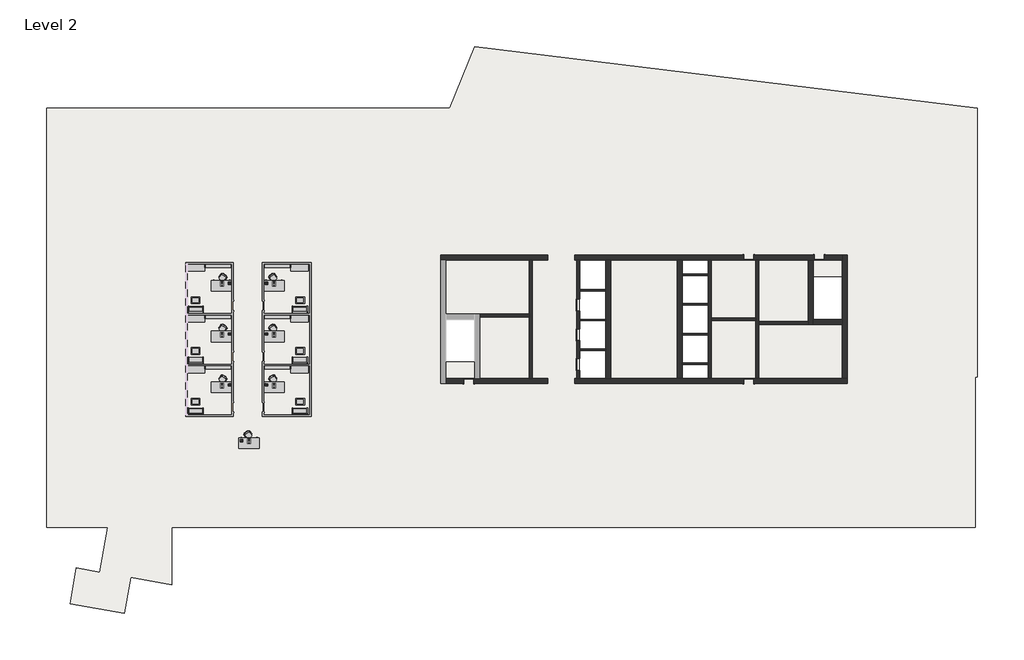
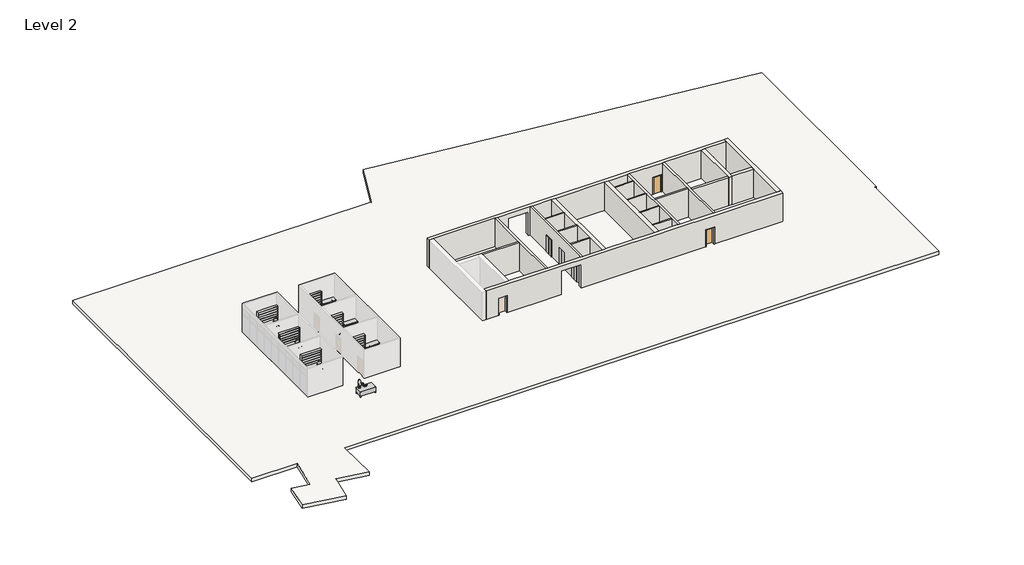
# One storey, part 2 of 2: 38 furniture elements, 21 walls, 17 proxies, 3 doors, 1 slab.
"""IFC4 building model written with IfcOpenShell, lengths in millimetres."""

from ifc_helpers import new_model, si_unit, frame, origin, place, context, project, spatial, polyline, outline, extrude, faceted_brep, transform, mapped, element, save
from components import entourage_0ad6723a, entourage_8dadc95b, proxy_7fed659c, phone_phone_5230e7aa, phone_phone_b8b7aebd, door_3c99239a, door_aec9db07, chair_executive_chair_executive_8d69e98c, chair_executive_chair_executive_a5be4872, furniture_894c625b, furniture_2f1724fb, furniture_2fc54265, furniture_91cd4dc0, furniture_b1da5ad0, furniture_33c9adaf, furniture_22419f35, furniture_8ec9ccbf, furniture_5f90431c, furniture_32e53e92

model = new_model("IFC4")

# Units and contexts
model_context = context("Model", 3, world=origin())
ifc_project = project(units=[si_unit("LENGTHUNIT", "METRE", prefix="MILLI")], contexts=[model_context])

# Site, building, storey
site = spatial("IfcSite", under=ifc_project)
building = spatial("IfcBuilding", under=site)
storey = spatial("IfcBuildingStorey", under=building, Name="Level 2", Elevation=3657.6)

# Proxies
placement = place(None, origin())
entourage_shape = entourage_0ad6723a(model_context)
element("IfcBuildingElementProxy", 1, Name="RPC Notebook Computer : RPC Notebook Computer", ObjectType="RPC Notebook Computer : RPC Notebook Computer", at=placement, inside=storey, context=model_context, shape_type="MappedRepresentation", body=[
    mapped(entourage_shape, transform((-52901.4856498, -14963.1103492, 4419.6), x_axis=(-1.0, 0.0, 0.0), y_axis=(0.0, -1.0, 0.0), z_axis=(0.0, 0.0, 1.0))),
])
element("IfcBuildingElementProxy", 2, Name="RPC Notebook Computer : RPC Notebook Computer", ObjectType="RPC Notebook Computer : RPC Notebook Computer", at=placement, inside=storey, context=model_context, shape_type="MappedRepresentation", body=[
    mapped(entourage_shape, transform((-52901.4856498, -10391.1103492, 4419.6), x_axis=(-1.0, 0.0, 0.0), y_axis=(0.0, -1.0, 0.0), z_axis=(0.0, 0.0, 1.0))),
])
element("IfcBuildingElementProxy", 3, Name="RPC Notebook Computer : RPC Notebook Computer", ObjectType="RPC Notebook Computer : RPC Notebook Computer", at=placement, inside=storey, context=model_context, shape_type="MappedRepresentation", body=[
    mapped(entourage_shape, transform((-52901.4856498, -5819.1103492, 4419.6), x_axis=(-1.0, 0.0, 0.0), y_axis=(0.0, -1.0, 0.0), z_axis=(0.0, 0.0, 1.0))),
])
entourage_2_shape = entourage_8dadc95b(model_context)
element("IfcBuildingElementProxy", 4, Name="RPC Notebook Computer : RPC Notebook Computer", ObjectType="RPC Notebook Computer : RPC Notebook Computer", at=placement, inside=storey, context=model_context, shape_type="MappedRepresentation", body=[
    mapped(entourage_2_shape, transform((-48216.9999355, -10391.1103492, 4419.6), x_axis=(1.0, 0.0, 0.0), y_axis=(0.0, 1.0, 0.0), z_axis=(0.0, 0.0, 1.0))),
])
element("IfcBuildingElementProxy", 5, Name="RPC Notebook Computer : RPC Notebook Computer", ObjectType="RPC Notebook Computer : RPC Notebook Computer", at=placement, inside=storey, context=model_context, shape_type="MappedRepresentation", body=[
    mapped(entourage_2_shape, transform((-48216.9999355, -14963.1103492, 4419.6), x_axis=(1.0, 0.0, 0.0), y_axis=(0.0, 1.0, 0.0), z_axis=(0.0, 0.0, 1.0))),
])
element("IfcBuildingElementProxy", 6, Name="RPC Notebook Computer : RPC Notebook Computer", ObjectType="RPC Notebook Computer : RPC Notebook Computer", at=placement, inside=storey, context=model_context, shape_type="MappedRepresentation", body=[
    mapped(entourage_2_shape, transform((-48216.9999355, -5819.1103492, 4419.6), x_axis=(1.0, 0.0, 0.0), y_axis=(0.0, 1.0, 0.0), z_axis=(0.0, 0.0, 1.0))),
])
element("IfcBuildingElementProxy", 7, Name="RPC Notebook Computer : RPC Notebook Computer", ObjectType="RPC Notebook Computer : RPC Notebook Computer", at=placement, inside=storey, context=model_context, shape_type="MappedRepresentation", body=[
    mapped(entourage_2_shape, transform((-50448.5198541, -19975.186148, 4419.6), x_axis=(1.0, 0.0, 0.0), y_axis=(0.0, 1.0, 0.0), z_axis=(0.0, 0.0, 1.0))),
])
proxy_shape = proxy_7fed659c(model_context)
element("IfcBuildingElementProxy", 8, Name="Elevator%20Door-Center[1] : 42\" x 84\"", ObjectType="Elevator%20Door-Center[1] : 42\" x 84\"", at=placement, inside=storey, context=model_context, shape_type="MappedRepresentation", body=[
    mapped(proxy_shape, transform((-20852.1285069, -7663.0747049, 3657.6), x_axis=(0.0, 1.0, 0.0), y_axis=(-1.0, 0.0, 0.0), z_axis=(0.0, 0.0, 1.0))),
])
element("IfcBuildingElementProxy", 9, Name="Elevator%20Door-Center[1] : 42\" x 84\"", ObjectType="Elevator%20Door-Center[1] : 42\" x 84\"", at=placement, inside=storey, context=model_context, shape_type="MappedRepresentation", body=[
    mapped(proxy_shape, transform((-20852.1285069, -10330.0747049, 3657.6), x_axis=(0.0, 1.0, 0.0), y_axis=(-1.0, 0.0, 0.0), z_axis=(0.0, 0.0, 1.0))),
])
element("IfcBuildingElementProxy", 10, Name="Elevator%20Door-Center[1] : 42\" x 84\"", ObjectType="Elevator%20Door-Center[1] : 42\" x 84\"", at=placement, inside=storey, context=model_context, shape_type="MappedRepresentation", body=[
    mapped(proxy_shape, transform((-20852.1285069, -12997.0747049, 3657.6), x_axis=(0.0, 1.0, 0.0), y_axis=(-1.0, 0.0, 0.0), z_axis=(0.0, 0.0, 1.0))),
])
phone_phone_shape = phone_phone_5230e7aa(model_context)
element("IfcBuildingElementProxy", 11, Name="Phone : Phone", ObjectType="Phone : Phone", at=placement, inside=storey, context=model_context, shape_type="MappedRepresentation", body=[
    mapped(phone_phone_shape, transform((-51981.0043036, -15147.0065782, 4419.6), x_axis=(1.0, 0.0, 0.0), y_axis=(0.0, 1.0, 0.0), z_axis=(0.0, 0.0, 1.0))),
])
element("IfcBuildingElementProxy", 12, Name="Phone : Phone", ObjectType="Phone : Phone", at=placement, inside=storey, context=model_context, shape_type="MappedRepresentation", body=[
    mapped(phone_phone_shape, transform((-51981.0043036, -10575.0065782, 4419.6), x_axis=(1.0, 0.0, 0.0), y_axis=(0.0, 1.0, 0.0), z_axis=(0.0, 0.0, 1.0))),
])
element("IfcBuildingElementProxy", 13, Name="Phone : Phone", ObjectType="Phone : Phone", at=placement, inside=storey, context=model_context, shape_type="MappedRepresentation", body=[
    mapped(phone_phone_shape, transform((-51981.0043036, -6003.0065782, 4419.6), x_axis=(1.0, 0.0, 0.0), y_axis=(0.0, 1.0, 0.0), z_axis=(0.0, 0.0, 1.0))),
])
phone_phone_2_shape = phone_phone_b8b7aebd(model_context)
element("IfcBuildingElementProxy", 14, Name="Phone : Phone", ObjectType="Phone : Phone", at=placement, inside=storey, context=model_context, shape_type="MappedRepresentation", body=[
    mapped(phone_phone_2_shape, transform((-49137.4812816, -10575.0065782, 4419.6), x_axis=(-1.0, 0.0, 0.0), y_axis=(0.0, -1.0, 0.0), z_axis=(0.0, 0.0, 1.0))),
])
element("IfcBuildingElementProxy", 15, Name="Phone : Phone", ObjectType="Phone : Phone", at=placement, inside=storey, context=model_context, shape_type="MappedRepresentation", body=[
    mapped(phone_phone_2_shape, transform((-49137.4812816, -15147.0065782, 4419.6), x_axis=(-1.0, 0.0, 0.0), y_axis=(0.0, -1.0, 0.0), z_axis=(0.0, 0.0, 1.0))),
])
element("IfcBuildingElementProxy", 16, Name="Phone : Phone", ObjectType="Phone : Phone", at=placement, inside=storey, context=model_context, shape_type="MappedRepresentation", body=[
    mapped(phone_phone_2_shape, transform((-49137.4812816, -6003.0065782, 4419.6), x_axis=(-1.0, 0.0, 0.0), y_axis=(0.0, -1.0, 0.0), z_axis=(0.0, 0.0, 1.0))),
])
element("IfcBuildingElementProxy", 17, Name="Phone : Phone", ObjectType="Phone : Phone", at=placement, inside=storey, context=model_context, shape_type="MappedRepresentation", body=[
    mapped(phone_phone_2_shape, transform((-51369.0012002, -20159.082377, 4419.6), x_axis=(-1.0, 0.0, 0.0), y_axis=(0.0, -1.0, 0.0), z_axis=(0.0, 0.0, 1.0))),
])

# Doors
door_shape = door_3c99239a(model_context)
element("IfcDoor", 18, ObjectType="Single-Flush : 36\" x 84\"", at=placement, inside=storey, context=model_context, shape_type="MappedRepresentation", body=[
    mapped(door_shape, transform((817.7000645, -3469.6103492, 3657.6), x_axis=(-1.0, 0.0, 0.0), y_axis=(0.0, -1.0, 0.0), z_axis=(0.0, 0.0, 1.0))),
])
element("IfcDoor", 19, ObjectType="Single-Flush : 36\" x 84\"", at=placement, inside=storey, context=model_context, shape_type="MappedRepresentation", body=[
    mapped(door_shape, transform((-5525.0427926, -14594.8103492, 3657.6), x_axis=(1.0, 0.0, 0.0), y_axis=(0.0, 1.0, 0.0), z_axis=(0.0, 0.0, 1.0))),
])
door_2_shape = door_aec9db07(model_context)
element("IfcDoor", 20, ObjectType="Single-Flush : 36\" x 84\"", at=placement, inside=storey, context=model_context, shape_type="MappedRepresentation", body=[
    mapped(door_2_shape, transform((-5525.0427926, -3469.6103492, 3657.6), x_axis=(1.0, 0.0, 0.0), y_axis=(0.0, 1.0, 0.0), z_axis=(0.0, 0.0, 1.0))),
])

# Furniture
chair_executive_chair_executive_shape = chair_executive_chair_executive_8d69e98c(model_context)
element("IfcFurniture", 21, ObjectType="Chair-Executive : Chair-Executive", at=placement, inside=storey, context=model_context, shape_type="MappedRepresentation", body=[
    mapped(chair_executive_chair_executive_shape, transform((-52699.1922211, -14498.6688157, 3657.6), x_axis=(-0.838670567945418, 0.5446390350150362, 0.0), y_axis=(-0.5446390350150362, -0.838670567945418, 0.0), z_axis=(0.0, 0.0, 1.0))),
])
element("IfcFurniture", 22, ObjectType="Chair-Executive : Chair-Executive", at=placement, inside=storey, context=model_context, shape_type="MappedRepresentation", body=[
    mapped(chair_executive_chair_executive_shape, transform((-52699.1922211, -9926.6688157, 3657.6), x_axis=(-0.8386705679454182, 0.5446390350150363, 0.0), y_axis=(-0.5446390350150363, -0.8386705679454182, 0.0), z_axis=(0.0, 0.0, 1.0))),
])
element("IfcFurniture", 23, ObjectType="Chair-Executive : Chair-Executive", at=placement, inside=storey, context=model_context, shape_type="MappedRepresentation", body=[
    mapped(chair_executive_chair_executive_shape, transform((-52699.1922211, -5354.6688157, 3657.6), x_axis=(-0.8386705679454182, 0.5446390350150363, 0.0), y_axis=(-0.5446390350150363, -0.8386705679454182, 0.0), z_axis=(0.0, 0.0, 1.0))),
])
chair_executive_chair_executive_2_shape = chair_executive_chair_executive_a5be4872(model_context)
element("IfcFurniture", 24, ObjectType="Chair-Executive : Chair-Executive", at=placement, inside=storey, context=model_context, shape_type="MappedRepresentation", body=[
    mapped(chair_executive_chair_executive_2_shape, transform((-48419.2933641, -9926.6688157, 3657.6), x_axis=(0.8386705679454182, 0.5446390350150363, 0.0), y_axis=(-0.5446390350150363, 0.8386705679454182, 0.0), z_axis=(0.0, 0.0, 1.0))),
])
element("IfcFurniture", 25, ObjectType="Chair-Executive : Chair-Executive", at=placement, inside=storey, context=model_context, shape_type="MappedRepresentation", body=[
    mapped(chair_executive_chair_executive_2_shape, transform((-48419.2933641, -14498.6688157, 3657.6), x_axis=(0.8386705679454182, 0.5446390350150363, 0.0), y_axis=(-0.5446390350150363, 0.8386705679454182, 0.0), z_axis=(0.0, 0.0, 1.0))),
])
element("IfcFurniture", 26, ObjectType="Chair-Executive : Chair-Executive", at=placement, inside=storey, context=model_context, shape_type="MappedRepresentation", body=[
    mapped(chair_executive_chair_executive_2_shape, transform((-48419.2933641, -5354.6688157, 3657.6), x_axis=(0.8386705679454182, 0.5446390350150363, 0.0), y_axis=(-0.5446390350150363, 0.8386705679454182, 0.0), z_axis=(0.0, 0.0, 1.0))),
])
element("IfcFurniture", 27, ObjectType="Chair-Executive : Chair-Executive", at=placement, inside=storey, context=model_context, shape_type="MappedRepresentation", body=[
    mapped(chair_executive_chair_executive_2_shape, transform((-50650.8132827, -19510.7446145, 3657.6), x_axis=(0.8386705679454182, 0.5446390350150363, 0.0), y_axis=(-0.5446390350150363, 0.8386705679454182, 0.0), z_axis=(0.0, 0.0, 1.0))),
])
furniture_shape = furniture_894c625b(model_context)
element("IfcFurniture", 28, ObjectType="Credenza : 60\" x 24\"", at=placement, inside=storey, context=model_context, shape_type="MappedRepresentation", body=[
    mapped(furniture_shape, transform((-55272.4299121, -13519.8906771, 3657.6), x_axis=(1.0, 0.0, 0.0), y_axis=(0.0, 1.0, 0.0), z_axis=(0.0, 0.0, 1.0))),
])
element("IfcFurniture", 29, ObjectType="Credenza : 60\" x 24\"", at=placement, inside=storey, context=model_context, shape_type="MappedRepresentation", body=[
    mapped(furniture_shape, transform((-55272.4299121, -8947.8906771, 3657.6), x_axis=(1.0, 0.0, 0.0), y_axis=(0.0, 1.0, 0.0), z_axis=(0.0, 0.0, 1.0))),
])
element("IfcFurniture", 30, ObjectType="Credenza : 60\" x 24\"", at=placement, inside=storey, context=model_context, shape_type="MappedRepresentation", body=[
    mapped(furniture_shape, transform((-55272.4299121, -4375.8906771, 3657.6), x_axis=(1.0, 0.0, 0.0), y_axis=(0.0, 1.0, 0.0), z_axis=(0.0, 0.0, 1.0))),
])
furniture_2_shape = furniture_2f1724fb(model_context)
element("IfcFurniture", 31, ObjectType="Credenza : 60\" x 24\"", at=placement, inside=storey, context=model_context, shape_type="MappedRepresentation", body=[
    mapped(furniture_2_shape, transform((-45846.0556732, -8947.8906771, 3657.6), x_axis=(-1.0, 0.0, 0.0), y_axis=(0.0, -1.0, 0.0), z_axis=(0.0, 0.0, 1.0))),
])
element("IfcFurniture", 32, ObjectType="Credenza : 60\" x 24\"", at=placement, inside=storey, context=model_context, shape_type="MappedRepresentation", body=[
    mapped(furniture_2_shape, transform((-45846.0556732, -13519.8906771, 3657.6), x_axis=(-1.0, 0.0, 0.0), y_axis=(0.0, -1.0, 0.0), z_axis=(0.0, 0.0, 1.0))),
])
element("IfcFurniture", 33, ObjectType="Credenza : 60\" x 24\"", at=placement, inside=storey, context=model_context, shape_type="MappedRepresentation", body=[
    mapped(furniture_2_shape, transform((-45846.0556732, -4375.8906771, 3657.6), x_axis=(-1.0, 0.0, 0.0), y_axis=(0.0, -1.0, 0.0), z_axis=(0.0, 0.0, 1.0))),
])
furniture_3_shape = furniture_2fc54265(model_context)
element("IfcFurniture", 34, ObjectType="Desk : 72\" x 36\"", at=placement, inside=storey, context=model_context, shape_type="MappedRepresentation", body=[
    mapped(furniture_3_shape, transform((-53815.8856498, -15610.8103492, 3657.6), x_axis=(1.0000000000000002, 0.0, 0.0), y_axis=(0.0, 1.0000000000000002, 0.0), z_axis=(0.0, 0.0, 1.0))),
])
element("IfcFurniture", 35, ObjectType="Desk : 72\" x 36\"", at=placement, inside=storey, context=model_context, shape_type="MappedRepresentation", body=[
    mapped(furniture_3_shape, transform((-53815.8856498, -11038.8103492, 3657.6), x_axis=(1.0, 0.0, 0.0), y_axis=(0.0, 1.0, 0.0), z_axis=(0.0, 0.0, 1.0))),
])
element("IfcFurniture", 36, ObjectType="Desk : 72\" x 36\"", at=placement, inside=storey, context=model_context, shape_type="MappedRepresentation", body=[
    mapped(furniture_3_shape, transform((-53815.8856498, -6466.8103492, 3657.6), x_axis=(1.0, 0.0, 0.0), y_axis=(0.0, 1.0, 0.0), z_axis=(0.0, 0.0, 1.0))),
])
furniture_4_shape = furniture_91cd4dc0(model_context)
element("IfcFurniture", 37, ObjectType="Desk : 72\" x 36\"", at=placement, inside=storey, context=model_context, shape_type="MappedRepresentation", body=[
    mapped(furniture_4_shape, transform((-47302.5999355, -11038.8103492, 3657.6), x_axis=(-1.0, 0.0, 0.0), y_axis=(0.0, -1.0, 0.0), z_axis=(0.0, 0.0, 1.0))),
])
element("IfcFurniture", 38, ObjectType="Desk : 72\" x 36\"", at=placement, inside=storey, context=model_context, shape_type="MappedRepresentation", body=[
    mapped(furniture_4_shape, transform((-47302.5999355, -15610.8103492, 3657.6), x_axis=(-1.0, 0.0, 0.0), y_axis=(0.0, -1.0, 0.0), z_axis=(0.0, 0.0, 1.0))),
])
element("IfcFurniture", 39, ObjectType="Desk : 72\" x 36\"", at=placement, inside=storey, context=model_context, shape_type="MappedRepresentation", body=[
    mapped(furniture_4_shape, transform((-47302.5999355, -6466.8103492, 3657.6), x_axis=(-1.0, 0.0, 0.0), y_axis=(0.0, -1.0, 0.0), z_axis=(0.0, 0.0, 1.0))),
])
element("IfcFurniture", 40, ObjectType="Desk : 72\" x 36\"", at=placement, inside=storey, context=model_context, shape_type="MappedRepresentation", body=[
    mapped(furniture_4_shape, transform((-49534.1198541, -20622.886148, 3657.6), x_axis=(-1.0, 0.0, 0.0), y_axis=(0.0, -1.0, 0.0), z_axis=(0.0, 0.0, 1.0))),
])
furniture_5_shape = furniture_b1da5ad0(model_context)
element("IfcFurniture", 41, ObjectType="Shelving : 96\" x 12\" x 84\"", at=placement, inside=storey, context=model_context, shape_type="MappedRepresentation", body=[
    mapped(furniture_5_shape, transform((-53206.2856498, -13058.1103492, 3657.6), x_axis=(1.0, 0.0, 0.0), y_axis=(0.0, 1.0, 0.0), z_axis=(0.0, 0.0, 1.0))),
])
element("IfcFurniture", 42, ObjectType="Shelving : 96\" x 12\" x 84\"", at=placement, inside=storey, context=model_context, shape_type="MappedRepresentation", body=[
    mapped(furniture_5_shape, transform((-53206.2856498, -8486.1103492, 3657.6), x_axis=(1.0, 0.0, 0.0), y_axis=(0.0, 1.0, 0.0), z_axis=(0.0, 0.0, 1.0))),
])
element("IfcFurniture", 43, ObjectType="Shelving : 96\" x 12\" x 84\"", at=placement, inside=storey, context=model_context, shape_type="MappedRepresentation", body=[
    mapped(furniture_5_shape, transform((-53206.2856498, -3914.1103492, 3657.6), x_axis=(1.0, 0.0, 0.0), y_axis=(0.0, 1.0, 0.0), z_axis=(0.0, 0.0, 1.0))),
])
furniture_6_shape = furniture_33c9adaf(model_context)
element("IfcFurniture", 44, ObjectType="Shelving : 96\" x 12\" x 84\"", at=placement, inside=storey, context=model_context, shape_type="MappedRepresentation", body=[
    mapped(furniture_6_shape, transform((-47912.1999355, -8486.1103492, 3657.6), x_axis=(-1.0, 0.0, 0.0), y_axis=(0.0, -1.0, 0.0), z_axis=(0.0, 0.0, 1.0))),
])
element("IfcFurniture", 45, ObjectType="Shelving : 96\" x 12\" x 84\"", at=placement, inside=storey, context=model_context, shape_type="MappedRepresentation", body=[
    mapped(furniture_6_shape, transform((-47912.1999355, -13058.1103492, 3657.6), x_axis=(-1.0, 0.0, 0.0), y_axis=(0.0, -1.0, 0.0), z_axis=(0.0, 0.0, 1.0))),
])
element("IfcFurniture", 46, ObjectType="Shelving : 96\" x 12\" x 84\"", at=placement, inside=storey, context=model_context, shape_type="MappedRepresentation", body=[
    mapped(furniture_6_shape, transform((-47912.1999355, -3914.1103492, 3657.6), x_axis=(-1.0, 0.0, 0.0), y_axis=(0.0, -1.0, 0.0), z_axis=(0.0, 0.0, 1.0))),
])
furniture_7_shape = furniture_22419f35(model_context)
element("IfcFurniture", 47, ObjectType="Sofa : 54\"", at=placement, inside=storey, context=model_context, shape_type="MappedRepresentation", body=[
    mapped(furniture_7_shape, transform((-55167.915158, -17174.6119184, 3657.6), x_axis=(-1.0, 0.0, 0.0), y_axis=(0.0, -1.0, 0.0), z_axis=(0.0, 0.0, 1.0))),
])
element("IfcFurniture", 48, ObjectType="Sofa : 54\"", at=placement, inside=storey, context=model_context, shape_type="MappedRepresentation", body=[
    mapped(furniture_7_shape, transform((-55167.915158, -12602.6119184, 3657.6), x_axis=(-1.0, 0.0, 0.0), y_axis=(0.0, -1.0, 0.0), z_axis=(0.0, 0.0, 1.0))),
])
element("IfcFurniture", 49, ObjectType="Sofa : 54\"", at=placement, inside=storey, context=model_context, shape_type="MappedRepresentation", body=[
    mapped(furniture_7_shape, transform((-55167.915158, -8030.6119184, 3657.6), x_axis=(-1.0, 0.0, 0.0), y_axis=(0.0, -1.0, 0.0), z_axis=(0.0, 0.0, 1.0))),
])
furniture_8_shape = furniture_8ec9ccbf(model_context)
element("IfcFurniture", 50, ObjectType="Sofa : 54\"", at=placement, inside=storey, context=model_context, shape_type="MappedRepresentation", body=[
    mapped(furniture_8_shape, transform((-45950.5704273, -12602.6119184, 3657.6), x_axis=(1.0, 0.0, 0.0), y_axis=(0.0, 1.0, 0.0), z_axis=(0.0, 0.0, 1.0))),
])
element("IfcFurniture", 51, ObjectType="Sofa : 54\"", at=placement, inside=storey, context=model_context, shape_type="MappedRepresentation", body=[
    mapped(furniture_8_shape, transform((-45950.5704273, -17174.6119184, 3657.6), x_axis=(1.0, 0.0, 0.0), y_axis=(0.0, 1.0, 0.0), z_axis=(0.0, 0.0, 1.0))),
])
element("IfcFurniture", 52, ObjectType="Sofa : 54\"", at=placement, inside=storey, context=model_context, shape_type="MappedRepresentation", body=[
    mapped(furniture_8_shape, transform((-45950.5704273, -8030.6119184, 3657.6), x_axis=(1.0, 0.0, 0.0), y_axis=(0.0, 1.0, 0.0), z_axis=(0.0, 0.0, 1.0))),
])
furniture_9_shape = furniture_5f90431c(model_context)
element("IfcFurniture", 53, ObjectType="Table-Coffee : 31\" x 28\" x 24\"", at=placement, inside=storey, context=model_context, shape_type="MappedRepresentation", body=[
    mapped(furniture_9_shape, transform((-55168.474572, -16475.4317834, 3657.6), x_axis=(0.0, 1.0, 0.0), y_axis=(-1.0, 0.0, 0.0), z_axis=(0.0, 0.0, 1.0))),
])
element("IfcFurniture", 54, ObjectType="Table-Coffee : 31\" x 28\" x 24\"", at=placement, inside=storey, context=model_context, shape_type="MappedRepresentation", body=[
    mapped(furniture_9_shape, transform((-55168.474572, -11903.4317834, 3657.6), x_axis=(0.0, 1.0, 0.0), y_axis=(-1.0, 0.0, 0.0), z_axis=(0.0, 0.0, 1.0))),
])
element("IfcFurniture", 55, ObjectType="Table-Coffee : 31\" x 28\" x 24\"", at=placement, inside=storey, context=model_context, shape_type="MappedRepresentation", body=[
    mapped(furniture_9_shape, transform((-55168.474572, -7331.4317834, 3657.6), x_axis=(0.0, 1.0, 0.0), y_axis=(-1.0, 0.0, 0.0), z_axis=(0.0, 0.0, 1.0))),
])
furniture_10_shape = furniture_32e53e92(model_context)
element("IfcFurniture", 56, ObjectType="Table-Coffee : 31\" x 28\" x 24\"", at=placement, inside=storey, context=model_context, shape_type="MappedRepresentation", body=[
    mapped(furniture_10_shape, transform((-45950.0110133, -11903.4317834, 3657.6), x_axis=(0.0, 1.0, 0.0), y_axis=(-1.0, 0.0, 0.0), z_axis=(0.0, 0.0, 1.0))),
])
element("IfcFurniture", 57, ObjectType="Table-Coffee : 31\" x 28\" x 24\"", at=placement, inside=storey, context=model_context, shape_type="MappedRepresentation", body=[
    mapped(furniture_10_shape, transform((-45950.0110133, -16475.4317834, 3657.6), x_axis=(0.0, 1.0, 0.0), y_axis=(-1.0, 0.0, 0.0), z_axis=(0.0, 0.0, 1.0))),
])
element("IfcFurniture", 58, ObjectType="Table-Coffee : 31\" x 28\" x 24\"", at=placement, inside=storey, context=model_context, shape_type="MappedRepresentation", body=[
    mapped(furniture_10_shape, transform((-45950.0110133, -7331.4317834, 3657.6), x_axis=(0.0, 1.0, 0.0), y_axis=(-1.0, 0.0, 0.0), z_axis=(0.0, 0.0, 1.0))),
])

# Slab
element("IfcSlab", 59, ObjectType="Steel Bar Joist 14\" - Concrete", at=placement, inside=storey, context=model_context, shape_type="SweptSolid", body=[
    extrude(outline(polyline([(-68660.7599961, -27742.4853492), (-68660.7599961, 9954.2896508), (-32421.4843139, 9954.2896508), (-30175.817983, 15512.5088637), (15043.3054088, 9960.2986536), (15043.3054088, -14218.4266737), (14830.5804088, -14218.4266737), (14830.5804088, -27735.220667), (-57415.8125003, -27735.220667), (-57415.8125003, -32919.911766), (-61087.9334678, -32272.417763), (-61658.0117526, -35505.4923758), (-66551.3983764, -34642.656287), (-65981.3200915, -31409.5816742), (-63880.1342697, -31780.0774261), (-63168.1978494, -27742.4853492), (-68660.7599961, -27742.4853492)]), holes=[polyline([(-32750.2142212, -9032.2103492), (-32750.2142212, -12842.2103492), (-30166.6713641, -12842.2103492), (-30166.6713641, -9032.2103492), (-32750.2142212, -9032.2103492)]), polyline([(-20725.1285069, -3698.2103492), (-20725.1285069, -14366.2103492), (-18385.1284437, -14366.2103492), (-18385.1284437, -3698.2103492), (-20725.1285069, -3698.2103492)]), polyline([(-9157.2427926, -3698.2103492), (-11497.2428559, -3698.2103492), (-11497.2428559, -14366.2103492), (-9157.2427926, -14366.2103492), (-9157.2427926, -3698.2103492)]), polyline([(2867.8429217, -9032.2103492), (2867.8429217, -5222.2103492), (284.3000645, -5222.2103492), (284.3000645, -9032.2103492), (2867.8429217, -9032.2103492)])]), frame((0.0, 0.0, 3222.625), z_axis=(0.0, 0.0, 1.0), x_axis=(1.0, 0.0, 0.0)), (0.0, 0.0, 1.0), 434.975),
])

# Walls
element("IfcWall", 60, ObjectType="Core-shaft 10\" Concrete", at=placement, inside=storey, context=model_context, shape_type="SweptSolid", body=[
    extrude(outline(polyline([(-14366.2103492, 7315.2), (-3698.2103492, 7315.2), (-3698.2103492, 3657.6), (-7222.4603492, 3657.6), (-7222.4603492, 5816.6), (-8301.9603492, 5816.6), (-8301.9603492, 3657.6), (-9889.4603492, 3657.6), (-9889.4603492, 5816.6), (-10968.9603492, 5816.6), (-10968.9603492, 3657.6), (-12556.4603492, 3657.6), (-12556.4603492, 5816.6), (-13635.9603492, 5816.6), (-13635.9603492, 3657.6), (-14366.2103492, 3657.6), (-14366.2103492, 7315.2)])), frame((-20979.1285069, 0.0, 0.0), z_axis=(1.0, 0.0, 0.0), x_axis=(0.0, 1.0, 0.0)), (0.0, 0.0, 1.0), 254.0),
])
element("IfcWall", 61, ObjectType="Core-shaft 10\" Concrete", at=placement, inside=storey, context=model_context, shape_type="Brep", body=[
    faceted_brep([(-24992.3285069, -14366.2103492, 3657.6), (-24992.3285069, -3698.2103492, 3657.6), (-24992.3285069, -3698.2103492, 7315.2), (-24992.3285069, -14366.2103492, 7315.2), (-25246.3285069, -14366.2103492, 3657.6), (-25246.3285069, -14366.2103492, 7315.2), (-25246.3285069, -8829.0103492, 7315.2), (-25246.3285069, -8575.0103492, 7315.2), (-25246.3285069, -3698.2103492, 7315.2), (-25246.3285069, -3698.2103492, 3657.6), (-25246.3285069, -8575.0103492, 3657.6), (-25246.3285069, -8829.0103492, 3657.6)], [[[0, 1, 2, 3]], [[4, 5, 6, 7, 8, 9, 10, 11]], [[1, 0, 4, 11, 10, 9]], [[3, 2, 8, 7, 6, 5]], [[2, 1, 9, 8]], [[0, 3, 5, 4]]]),
])
element("IfcWall", 62, ObjectType="Core-shaft 10\" Concrete", at=placement, inside=storey, context=model_context, shape_type="SweptSolid", body=[
    extrude(outline(polyline([(-25246.3285069, -8829.0103492), (-29709.4713641, -8829.0103492), (-29709.4713641, -8575.0103492), (-25246.3285069, -8575.0103492), (-25246.3285069, -8829.0103492)])), frame((0.0, 0.0, 3657.6), z_axis=(0.0, 0.0, 1.0), x_axis=(1.0, 0.0, 0.0)), (0.0, 0.0, 1.0), 3657.6),
])
element("IfcWall", 63, ObjectType="Core-shaft 10\" Concrete", at=placement, inside=storey, context=model_context, shape_type="SweptSolid", body=[
    extrude(outline(polyline([(-8903.2427926, -3698.2103492), (-8903.2427926, -14366.2103492), (-9157.2427926, -14366.2103492), (-9157.2427926, -3698.2103492), (-8903.2427926, -3698.2103492)])), frame((0.0, 0.0, 3657.6), z_axis=(0.0, 0.0, 1.0), x_axis=(1.0, 0.0, 0.0)), (0.0, 0.0, 1.0), 3657.6),
])
element("IfcWall", 64, ObjectType="Core-shaft 10\" Concrete", at=placement, inside=storey, context=model_context, shape_type="Brep", body=[
    faceted_brep([(-4636.0427926, -14366.2103492, 3657.6), (-4636.0427926, -9489.4103492, 3657.6), (-4636.0427926, -9235.4103492, 3657.6), (-4636.0427926, -3698.2103492, 3657.6), (-4636.0427926, -3698.2103492, 7315.2), (-4636.0427926, -9235.4103492, 7315.2), (-4636.0427926, -9489.4103492, 7315.2), (-4636.0427926, -14366.2103492, 7315.2), (-4890.0427926, -14366.2103492, 3657.6), (-4890.0427926, -14366.2103492, 7315.2), (-4890.0427926, -3698.2103492, 7315.2), (-4890.0427926, -3698.2103492, 3657.6)], [[[0, 1, 2, 3, 4, 5, 6, 7]], [[8, 9, 10, 11]], [[3, 2, 1, 0, 8, 11]], [[7, 6, 5, 4, 10, 9]], [[4, 3, 11, 10]], [[0, 7, 9, 8]]]),
])
element("IfcWall", 65, ObjectType="Core-shaft 10\" Concrete", at=placement, inside=storey, context=model_context, shape_type="SweptSolid", body=[
    extrude(outline(polyline([(-4636.0427926, -9235.4103492), (-172.8999355, -9235.4103492), (-172.8999355, -9489.4103492), (-4636.0427926, -9489.4103492), (-4636.0427926, -9235.4103492)])), frame((0.0, 0.0, 3657.6), z_axis=(0.0, 0.0, 1.0), x_axis=(1.0, 0.0, 0.0)), (0.0, 0.0, 1.0), 3657.6),
])
element("IfcWall", 66, ObjectType="Core-shaft 10\" Concrete", at=placement, inside=storey, context=model_context, shape_type="SweptSolid", body=[
    extrude(outline(polyline([(-8903.2427926, -8905.2103492), (-4890.0427926, -8905.2103492), (-4890.0427926, -9159.2103492), (-8903.2427926, -9159.2103492), (-8903.2427926, -8905.2103492)])), frame((0.0, 0.0, 3657.6), z_axis=(0.0, 0.0, 1.0), x_axis=(1.0, 0.0, 0.0)), (0.0, 0.0, 1.0), 3657.6),
])
element("IfcWall", 67, ObjectType="Core-shaft 18\" Concrete", at=placement, inside=storey, context=model_context, shape_type="Brep", body=[
    faceted_brep([(3325.0429217, -14366.2103492, 3657.6), (2867.8429217, -14366.2103492, 3657.6), (-4636.0427926, -14366.2103492, 3657.6), (-4890.0427926, -14366.2103492, 3657.6), (-5067.8427926, -14366.2103492, 3657.6), (-5067.8427926, -14366.2103492, 5791.2), (-5982.2427926, -14366.2103492, 5791.2), (-5982.2427926, -14366.2103492, 3657.6), (-8903.2427926, -14366.2103492, 3657.6), (-9157.2427926, -14366.2103492, 3657.6), (-11497.2428559, -14366.2103492, 3657.6), (-11954.4428559, -14366.2103492, 3657.6), (-17927.9284437, -14366.2103492, 3657.6), (-18385.1284437, -14366.2103492, 3657.6), (-20725.1285069, -14366.2103492, 3657.6), (-20979.1285069, -14366.2103492, 3657.6), (-21167.8142212, -14366.2103492, 3657.6), (-21167.8142212, -14366.2103492, 6705.6), (-23606.2142212, -14366.2103492, 6705.6), (-23606.2142212, -14366.2103492, 3657.6), (-24992.3285069, -14366.2103492, 3657.6), (-25246.3285069, -14366.2103492, 3657.6), (-29709.4713641, -14366.2103492, 3657.6), (-30166.6713641, -14366.2103492, 3657.6), (-30242.8713641, -14366.2103492, 3657.6), (-30242.8713641, -14366.2103492, 5791.2), (-31157.2713641, -14366.2103492, 5791.2), (-31157.2713641, -14366.2103492, 3657.6), (-32750.2142212, -14366.2103492, 3657.6), (-32750.2142212, -14366.2103492, 7315.2), (-30166.6713641, -14366.2103492, 7315.2), (-29709.4713641, -14366.2103492, 7315.2), (-25246.3285069, -14366.2103492, 7315.2), (-24992.3285069, -14366.2103492, 7315.2), (-20979.1285069, -14366.2103492, 7315.2), (-20725.1285069, -14366.2103492, 7315.2), (-18385.1284437, -14366.2103492, 7315.2), (-17927.9284437, -14366.2103492, 7315.2), (-11954.4428559, -14366.2103492, 7315.2), (-11497.2428559, -14366.2103492, 7315.2), (-9157.2427926, -14366.2103492, 7315.2), (-8903.2427926, -14366.2103492, 7315.2), (-4890.0427926, -14366.2103492, 7315.2), (-4636.0427926, -14366.2103492, 7315.2), (2867.8429217, -14366.2103492, 7315.2), (3325.0429217, -14366.2103492, 7315.2), (-5067.8427926, -14823.4103492, 5791.2), (-5067.8427926, -14823.4103492, 3657.6), (3325.0429217, -14823.4103492, 3657.6), (3325.0429217, -14823.4103492, 7315.2), (-32750.2142212, -14823.4103492, 7315.2), (-32750.2142212, -14823.4103492, 3657.6), (-31157.2713641, -14823.4103492, 3657.6), (-31157.2713641, -14823.4103492, 5791.2), (-30242.8713641, -14823.4103492, 5791.2), (-30242.8713641, -14823.4103492, 3657.6), (-23606.2142212, -14823.4103492, 3657.6), (-23606.2142212, -14823.4103492, 6705.6), (-21167.8142212, -14823.4103492, 6705.6), (-21167.8142212, -14823.4103492, 3657.6), (-5982.2427926, -14823.4103492, 3657.6), (-5982.2427926, -14823.4103492, 5791.2)], [[[0, 1, 2, 3, 4, 5, 6, 7, 8, 9, 10, 11, 12, 13, 14, 15, 16, 17, 18, 19, 20, 21, 22, 23, 24, 25, 26, 27, 28, 29, 30, 31, 32, 33, 34, 35, 36, 37, 38, 39, 40, 41, 42, 43, 44, 45]], [[46, 47, 48, 49, 50, 51, 52, 53, 54, 55, 56, 57, 58, 59, 60, 61]], [[52, 51, 28, 27]], [[56, 55, 24, 23, 22, 21, 20, 19]], [[60, 59, 16, 15, 14, 13, 12, 11, 10, 9, 8, 7]], [[48, 47, 4, 3, 2, 1, 0]], [[45, 44, 43, 42, 41, 40, 39, 38, 37, 36, 35, 34, 33, 32, 31, 30, 29, 50, 49]], [[17, 58, 57, 18]], [[58, 17, 16, 59]], [[18, 57, 56, 19]], [[25, 24, 55, 54]], [[26, 25, 54, 53]], [[27, 26, 53, 52]], [[5, 4, 47, 46]], [[6, 5, 46, 61]], [[7, 6, 61, 60]], [[0, 45, 49, 48]], [[29, 28, 51, 50]]]),
])
element("IfcWall", 68, ObjectType="Core-shaft 18\" Concrete", at=placement, inside=storey, context=model_context, shape_type="Brep", body=[
    faceted_brep([(2867.8429217, -3241.0103492, 3657.6), (2867.8429217, -3698.2103492, 3657.6), (2867.8429217, -9032.2103492, 3657.6), (2867.8429217, -9489.4103492, 3657.6), (2867.8429217, -14366.2103492, 3657.6), (2867.8429217, -14366.2103492, 7315.2), (2867.8429217, -9489.4103492, 7315.2), (2867.8429217, -9032.2103492, 7315.2), (2867.8429217, -3698.2103492, 7315.2), (2867.8429217, -3241.0103492, 7315.2), (3325.0429217, -3241.0103492, 3657.6), (3325.0429217, -3241.0103492, 7315.2), (3325.0429217, -14366.2103492, 7315.2), (3325.0429217, -14366.2103492, 3657.6)], [[[0, 1, 2, 3, 4, 5, 6, 7, 8, 9]], [[10, 11, 12, 13]], [[4, 3, 2, 1, 0, 10, 13]], [[9, 8, 7, 6, 5, 12, 11]], [[0, 9, 11, 10]], [[5, 4, 13, 12]]]),
])
element("IfcWall", 69, ObjectType="Core-shaft 18\" Concrete", at=placement, inside=storey, context=model_context, shape_type="Brep", body=[
    faceted_brep([(-5067.8427926, -3698.2103492, 5791.2), (-5067.8427926, -3698.2103492, 3657.6), (-4890.0427926, -3698.2103492, 3657.6), (-4636.0427926, -3698.2103492, 3657.6), (-172.8999355, -3698.2103492, 3657.6), (284.3000645, -3698.2103492, 3657.6), (360.5000645, -3698.2103492, 3657.6), (360.5000645, -3698.2103492, 5791.2), (1274.9000645, -3698.2103492, 5791.2), (1274.9000645, -3698.2103492, 3657.6), (2867.8429217, -3698.2103492, 3657.6), (2867.8429217, -3698.2103492, 7315.2), (284.3000645, -3698.2103492, 7315.2), (-172.8999355, -3698.2103492, 7315.2), (-4636.0427926, -3698.2103492, 7315.2), (-4890.0427926, -3698.2103492, 7315.2), (-8903.2427926, -3698.2103492, 7315.2), (-9157.2427926, -3698.2103492, 7315.2), (-11497.2428559, -3698.2103492, 7315.2), (-11954.4428559, -3698.2103492, 7315.2), (-17927.9284437, -3698.2103492, 7315.2), (-18385.1284437, -3698.2103492, 7315.2), (-20725.1285069, -3698.2103492, 7315.2), (-20979.1285069, -3698.2103492, 7315.2), (-24992.3285069, -3698.2103492, 7315.2), (-25246.3285069, -3698.2103492, 7315.2), (-32750.2142212, -3698.2103492, 7315.2), (-33207.4142212, -3698.2103492, 7315.2), (-33207.4142212, -3698.2103492, 3657.6), (-32750.2142212, -3698.2103492, 3657.6), (-25246.3285069, -3698.2103492, 3657.6), (-24992.3285069, -3698.2103492, 3657.6), (-23606.2142212, -3698.2103492, 3657.6), (-23606.2142212, -3698.2103492, 6705.6), (-21167.8142212, -3698.2103492, 6705.6), (-21167.8142212, -3698.2103492, 3657.6), (-20979.1285069, -3698.2103492, 3657.6), (-20725.1285069, -3698.2103492, 3657.6), (-18385.1284437, -3698.2103492, 3657.6), (-17927.9284437, -3698.2103492, 3657.6), (-11954.4428559, -3698.2103492, 3657.6), (-11497.2428559, -3698.2103492, 3657.6), (-9157.2427926, -3698.2103492, 3657.6), (-8903.2427926, -3698.2103492, 3657.6), (-5982.2427926, -3698.2103492, 3657.6), (-5982.2427926, -3698.2103492, 5791.2), (360.5000645, -3241.0103492, 3657.6), (-5067.8427926, -3241.0103492, 3657.6), (-5067.8427926, -3241.0103492, 5791.2), (-5982.2427926, -3241.0103492, 5791.2), (-5982.2427926, -3241.0103492, 3657.6), (-21167.8142212, -3241.0103492, 3657.6), (-21167.8142212, -3241.0103492, 6705.6), (-23606.2142212, -3241.0103492, 6705.6), (-23606.2142212, -3241.0103492, 3657.6), (-33207.4142212, -3241.0103492, 3657.6), (-33207.4142212, -3241.0103492, 7315.2), (2867.8429217, -3241.0103492, 7315.2), (2867.8429217, -3241.0103492, 3657.6), (1274.9000645, -3241.0103492, 3657.6), (1274.9000645, -3241.0103492, 5791.2), (360.5000645, -3241.0103492, 5791.2)], [[[0, 1, 2, 3, 4, 5, 6, 7, 8, 9, 10, 11, 12, 13, 14, 15, 16, 17, 18, 19, 20, 21, 22, 23, 24, 25, 26, 27, 28, 29, 30, 31, 32, 33, 34, 35, 36, 37, 38, 39, 40, 41, 42, 43, 44, 45]], [[46, 47, 48, 49, 50, 51, 52, 53, 54, 55, 56, 57, 58, 59, 60, 61]], [[59, 58, 10, 9]], [[44, 43, 42, 41, 40, 39, 38, 37, 36, 35, 51, 50]], [[6, 5, 4, 3, 2, 1, 47, 46]], [[28, 55, 54, 32, 31, 30, 29]], [[27, 26, 25, 24, 23, 22, 21, 20, 19, 18, 17, 16, 15, 14, 13, 12, 11, 57, 56]], [[33, 53, 52, 34]], [[53, 33, 32, 54]], [[34, 52, 51, 35]], [[7, 6, 46, 61]], [[8, 7, 61, 60]], [[9, 8, 60, 59]], [[48, 47, 1, 0]], [[49, 48, 0, 45]], [[50, 49, 45, 44]], [[28, 27, 56, 55]], [[11, 10, 58, 57]]]),
])
element("IfcWall", 70, ObjectType="Core-shaft 18\" Concrete", at=placement, inside=storey, context=model_context, shape_type="SweptSolid", body=[
    extrude(outline(polyline([(-18385.1284437, -14366.2103492), (-18385.1284437, -3698.2103492), (-17927.9284437, -3698.2103492), (-17927.9284437, -14366.2103492), (-18385.1284437, -14366.2103492)])), frame((0.0, 0.0, 3657.6), z_axis=(0.0, 0.0, 1.0), x_axis=(1.0, 0.0, 0.0)), (0.0, 0.0, 1.0), 3657.6),
])
element("IfcWall", 71, ObjectType="Core-shaft 18\" Concrete", at=placement, inside=storey, context=model_context, shape_type="SweptSolid", body=[
    extrude(outline(polyline([(-11954.4428559, -14366.2103492), (-11954.4428559, -3698.2103492), (-11497.2428559, -3698.2103492), (-11497.2428559, -14366.2103492), (-11954.4428559, -14366.2103492)])), frame((0.0, 0.0, 3657.6), z_axis=(0.0, 0.0, 1.0), x_axis=(1.0, 0.0, 0.0)), (0.0, 0.0, 1.0), 3657.6),
])
element("IfcWall", 72, ObjectType="Core-shaft 18\" Concrete", at=placement, inside=storey, context=model_context, shape_type="Brep", body=[
    faceted_brep([(-172.8999355, -3698.2103492, 3657.6), (-172.8999355, -9235.4103492, 3657.6), (-172.8999355, -9489.4103492, 3657.6), (-172.8999355, -9489.4103492, 7315.2), (-172.8999355, -9235.4103492, 7315.2), (-172.8999355, -3698.2103492, 7315.2), (284.3000645, -3698.2103492, 3657.6), (284.3000645, -3698.2103492, 7315.2), (284.3000645, -9032.2103492, 7315.2), (284.3000645, -9489.4103492, 7315.2), (284.3000645, -9489.4103492, 3657.6), (284.3000645, -9032.2103492, 3657.6)], [[[0, 1, 2, 3, 4, 5]], [[6, 7, 8, 9, 10, 11]], [[2, 1, 0, 6, 11, 10]], [[5, 4, 3, 9, 8, 7]], [[3, 2, 10, 9]], [[0, 5, 7, 6]]]),
])
element("IfcWall", 73, ObjectType="Core-shaft 18\" Concrete", at=placement, inside=storey, context=model_context, shape_type="SweptSolid", body=[
    extrude(outline(polyline([(2867.8429217, -9489.4103492), (284.3000645, -9489.4103492), (284.3000645, -9032.2103492), (2867.8429217, -9032.2103492), (2867.8429217, -9489.4103492)])), frame((0.0, 0.0, 3657.6), z_axis=(0.0, 0.0, 1.0), x_axis=(1.0, 0.0, 0.0)), (0.0, 0.0, 1.0), 3657.6),
])
element("IfcWall", 74, ObjectType="Generic - 5\"", at=placement, inside=storey, context=model_context, shape_type="SweptSolid", body=[
    extrude(outline(polyline([(-18385.1284437, -11826.2103492), (-20725.1285069, -11826.2103492), (-20725.1285069, -11699.2103492), (-18385.1284437, -11699.2103492), (-18385.1284437, -11826.2103492)])), frame((0.0, 0.0, 3657.6), z_axis=(0.0, 0.0, 1.0), x_axis=(1.0, 0.0, 0.0)), (0.0, 0.0, 1.0), 3657.6),
])
element("IfcWall", 75, ObjectType="Generic - 5\"", at=placement, inside=storey, context=model_context, shape_type="SweptSolid", body=[
    extrude(outline(polyline([(-18385.1284437, -9159.2103492), (-20725.1285069, -9159.2103492), (-20725.1285069, -9032.2103492), (-18385.1284437, -9032.2103492), (-18385.1284437, -9159.2103492)])), frame((0.0, 0.0, 3657.6), z_axis=(0.0, 0.0, 1.0), x_axis=(1.0, 0.0, 0.0)), (0.0, 0.0, 1.0), 3657.6),
])
element("IfcWall", 76, ObjectType="Generic - 5\"", at=placement, inside=storey, context=model_context, shape_type="SweptSolid", body=[
    extrude(outline(polyline([(-18385.1284437, -6492.2103492), (-20725.1285069, -6492.2103492), (-20725.1285069, -6365.2103492), (-18385.1284437, -6365.2103492), (-18385.1284437, -6492.2103492)])), frame((0.0, 0.0, 3657.6), z_axis=(0.0, 0.0, 1.0), x_axis=(1.0, 0.0, 0.0)), (0.0, 0.0, 1.0), 3657.6),
])
element("IfcWall", 77, ObjectType="Generic - 5\"", at=placement, inside=storey, context=model_context, shape_type="SweptSolid", body=[
    extrude(outline(polyline([(-11497.2428559, -10302.2103492), (-9157.2427926, -10302.2103492), (-9157.2427926, -10429.2103492), (-11497.2428559, -10429.2103492), (-11497.2428559, -10302.2103492)])), frame((0.0, 0.0, 3657.6), z_axis=(0.0, 0.0, 1.0), x_axis=(1.0, 0.0, 0.0)), (0.0, 0.0, 1.0), 3657.6),
])
element("IfcWall", 78, ObjectType="Generic - 5\"", at=placement, inside=storey, context=model_context, shape_type="SweptSolid", body=[
    extrude(outline(polyline([(-11497.2428559, -7635.2103492), (-9157.2427926, -7635.2103492), (-9157.2427926, -7762.2103492), (-11497.2428559, -7762.2103492), (-11497.2428559, -7635.2103492)])), frame((0.0, 0.0, 3657.6), z_axis=(0.0, 0.0, 1.0), x_axis=(1.0, 0.0, 0.0)), (0.0, 0.0, 1.0), 3657.6),
])
element("IfcWall", 79, ObjectType="Generic - 5\"", at=placement, inside=storey, context=model_context, shape_type="SweptSolid", body=[
    extrude(outline(polyline([(-11497.2428559, -4968.2103492), (-9157.2427926, -4968.2103492), (-9157.2427926, -5095.2103492), (-11497.2428559, -5095.2103492), (-11497.2428559, -4968.2103492)])), frame((0.0, 0.0, 3657.6), z_axis=(0.0, 0.0, 1.0), x_axis=(1.0, 0.0, 0.0)), (0.0, 0.0, 1.0), 3657.6),
])
element("IfcWall", 80, ObjectType="Generic - 5\"", at=placement, inside=storey, context=model_context, shape_type="SweptSolid", body=[
    extrude(outline(polyline([(-11497.2428559, -12969.2103492), (-9157.2427926, -12969.2103492), (-9157.2427926, -13096.2103492), (-11497.2428559, -13096.2103492), (-11497.2428559, -12969.2103492)])), frame((0.0, 0.0, 3657.6), z_axis=(0.0, 0.0, 1.0), x_axis=(1.0, 0.0, 0.0)), (0.0, 0.0, 1.0), 3657.6),
])

save(model, "model.ifc")
